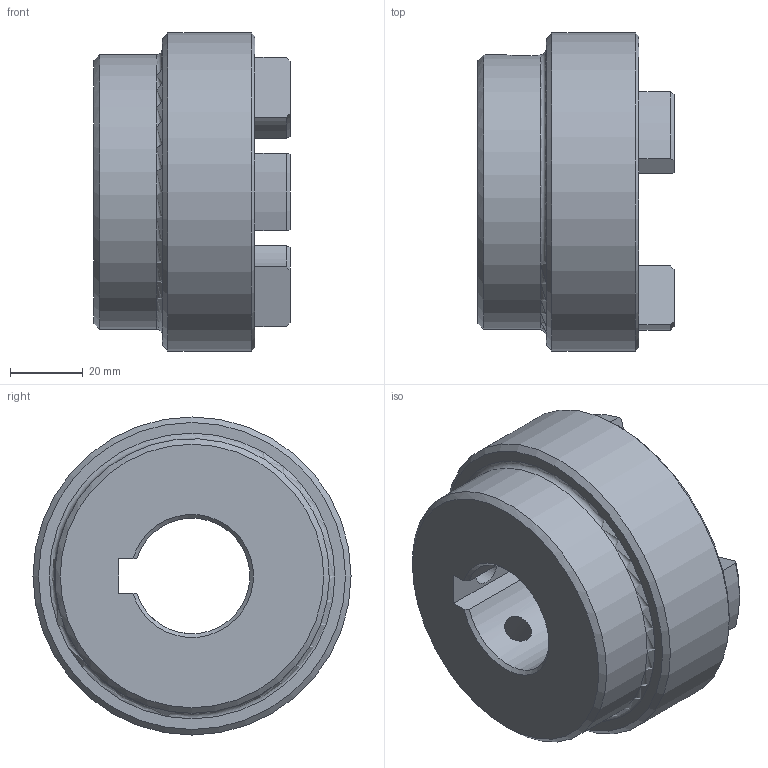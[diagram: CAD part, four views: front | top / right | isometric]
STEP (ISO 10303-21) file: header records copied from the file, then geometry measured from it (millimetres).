
FILE_DESCRIPTION (( 'STEP AP203' ), '1' );
FILE_NAME ('RC3.step', '2024-07-24T12:49:27', ( 'Adlan' ), ( '' ), 'SwSTEP 2.0', 'SolidWorks 2013', '' );
FILE_SCHEMA (( 'CONFIG_CONTROL_DESIGN' ));
Length unit declared in the file: inch
Products named in the file (1): RC3
Bounding box: 53.85 x 87.38 x 87.38 mm (x, y, z)
Volume: 167042.5 mm3; surface area: 30775.1 mm2
Topology: 1 solids, 1 shells, 69 faces, 182 edges, 115 vertices
Faces by surface type: cylinder 26, plane 18, torus 13, cone 12
Full cylindrical faces by diameter (mm): 7.937 x2, 75.438 x1, 87.376 x1
Entity records: 2363 total; most frequent: CARTESIAN_POINT 618, DIRECTION 364, ORIENTED_EDGE 332, EDGE_CURVE 166, AXIS2_PLACEMENT_3D 147, VERTEX_POINT 109, EDGE_LOOP 85, CIRCLE 77
